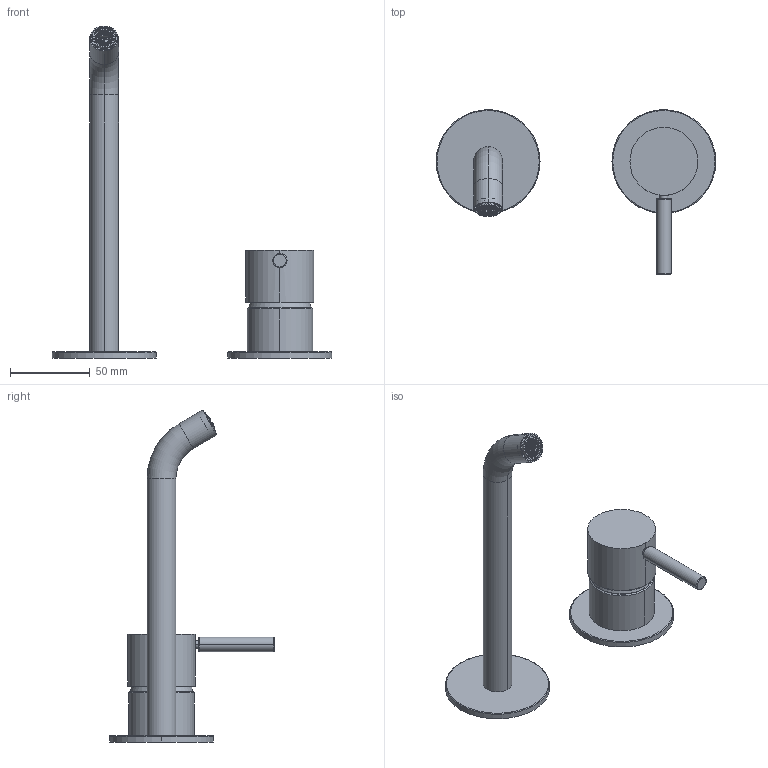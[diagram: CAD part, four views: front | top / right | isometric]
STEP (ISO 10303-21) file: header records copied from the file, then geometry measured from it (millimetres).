
FILE_DESCRIPTION((''),'2;1');
FILE_NAME('50000G913B000000_SW0001','2025-03-11T15:14:03',('cristian.dorz'),(''),'CREO PARAMETRIC BY PTC INC, 2022281','CREO PARAMETRIC BY PTC INC, 2022281','');
FILE_SCHEMA(('AUTOMOTIVE_DESIGN { 1 0 10303 214 1 1 1 1 }'));
Length unit declared in the file: millimetre
Products named in the file (1): 50000G913B000000_SW0001
Bounding box: 175 x 103.2 x 207.79 mm (x, y, z)
Volume: 165767.8 mm3; surface area: 40255 mm2
Topology: 2 solids, 3 shells, 500 faces, 1280 edges, 843 vertices
Faces by surface type: plane 421, cylinder 40, torus 20, bspline 11, cone 6, sphere 2
Entity records: 20459 total; most frequent: CARTESIAN_POINT 4310, DIRECTION 2707, ORIENTED_EDGE 2560, EDGE_CURVE 1280, AXIS2_PLACEMENT_3D 975, VERTEX_POINT 843, VECTOR 754, LINE 754
